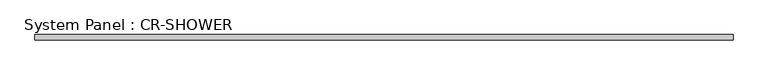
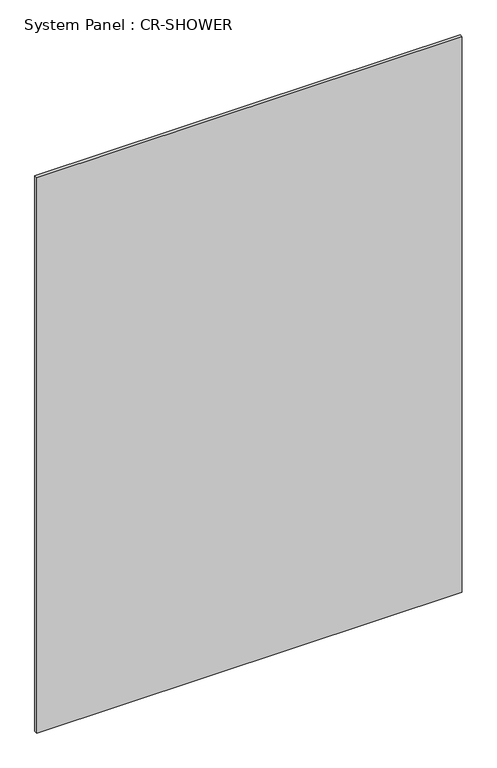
"""IFC4 building model written with IfcOpenShell, lengths in millimetres: plate geometry, System Panel : CR-SHOWER."""

from ifc_helpers import new_model, si_unit, origin, origin_with_axes, place, context, project, spatial, polyline, outline, extrude, source, transform, mapped, element, save


def system_panel_cr_shower_c0953742(model_context):
    return source(origin(), model_context, "Body", "SweptSolid", [
        extrude(outline(polyline([(822.6666667, -0.05), (-822.6666667, -0.05), (-822.6666667, 12.45), (822.6666667, 12.45), (822.6666667, -0.05)])), origin_with_axes(), (0.0, 0.0, 1.0), 2270.0),
    ])


if __name__ == "__main__":
    model = new_model("IFC4")
    model_context = context("Model", 3, world=origin())
    ifc_project = project(units=[si_unit("LENGTHUNIT", "METRE", prefix="MILLI")], contexts=[model_context])
    site = spatial("IfcSite", under=ifc_project)
    building = spatial("IfcBuilding", under=site)
    placement = place(None, origin())
    system_panel_cr_shower_shape = system_panel_cr_shower_c0953742(model_context)
    element("IfcPlate", 1, ObjectType="System Panel : CR-SHOWER", at=placement, inside=building, context=model_context, shape_type="MappedRepresentation", body=[
        mapped(system_panel_cr_shower_shape, transform((0.0, 0.0, 0.0), x_axis=(1.0, 0.0, 0.0), y_axis=(0.0, 1.0, 0.0), z_axis=(0.0, 0.0, 1.0))),
    ])
    save(model, "model.ifc")
